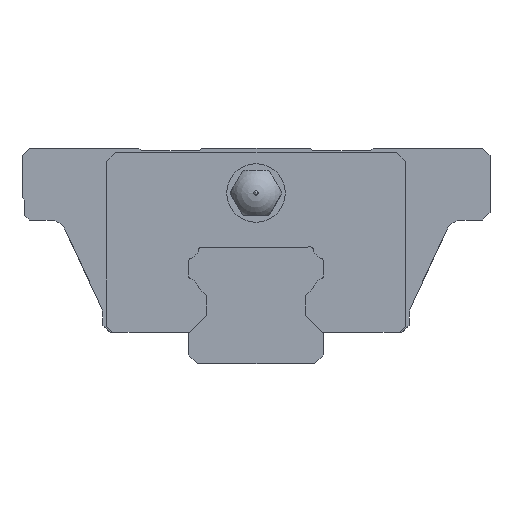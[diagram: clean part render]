
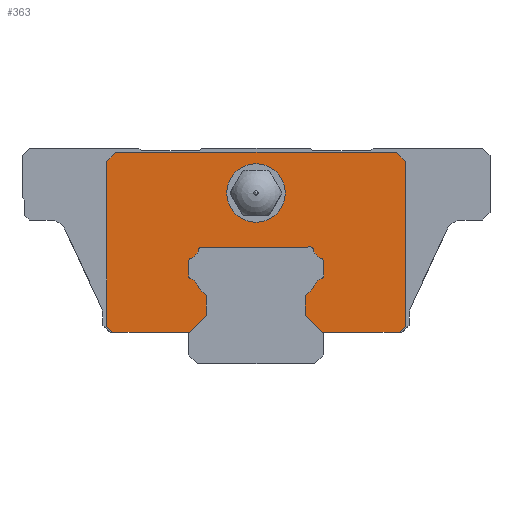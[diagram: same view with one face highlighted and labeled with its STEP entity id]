
A CAD part, front view. The second image highlights one B-rep face of the part: STEP entity #363.
In plain terms, the highlighted planar face has unit normal (0, -1, 0).
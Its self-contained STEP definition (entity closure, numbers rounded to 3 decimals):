
#127=FACE_BOUND('',#772,.T.);
#128=FACE_BOUND('',#773,.T.);
#363=ADVANCED_FACE('',(#127,#128),#502,.T.);
#502=PLANE('',#3280);
#772=EDGE_LOOP('',(#1483,#1484,#1485,#1486,#1487,#1488,#1489,#1490,#1491,#1492,#1493,#1494,#1495,#1496,#1497,#1498,#1499,#1500,#1501,#1502,#1503,#1504,#1505,#1506,#1507,#1508,#1509,#1510));
#773=EDGE_LOOP('',(#1511));
#914=CIRCLE('',#3219,0.3);
#916=CIRCLE('',#3222,1.4);
#918=CIRCLE('',#3229,1.4);
#920=CIRCLE('',#3232,0.3);
#922=CIRCLE('',#3236,0.3);
#924=CIRCLE('',#3239,1.4);
#926=CIRCLE('',#3242,0.3);
#928=CIRCLE('',#3245,0.3);
#930=CIRCLE('',#3248,1.4);
#932=CIRCLE('',#3251,0.3);
#936=CIRCLE('',#3278,3.25);
#1483=ORIENTED_EDGE('',*,*,#2380,.F.);
#1484=ORIENTED_EDGE('',*,*,#2344,.F.);
#1485=ORIENTED_EDGE('',*,*,#2341,.F.);
#1486=ORIENTED_EDGE('',*,*,#2338,.F.);
#1487=ORIENTED_EDGE('',*,*,#2335,.F.);
#1488=ORIENTED_EDGE('',*,*,#2332,.F.);
#1489=ORIENTED_EDGE('',*,*,#2378,.F.);
#1490=ORIENTED_EDGE('',*,*,#2376,.F.);
#1491=ORIENTED_EDGE('',*,*,#2373,.F.);
#1492=ORIENTED_EDGE('',*,*,#2384,.F.);
#1493=ORIENTED_EDGE('',*,*,#2369,.F.);
#1494=ORIENTED_EDGE('',*,*,#2366,.F.);
#1495=ORIENTED_EDGE('',*,*,#2363,.F.);
#1496=ORIENTED_EDGE('',*,*,#2360,.F.);
#1497=ORIENTED_EDGE('',*,*,#2357,.F.);
#1498=ORIENTED_EDGE('',*,*,#2354,.F.);
#1499=ORIENTED_EDGE('',*,*,#2351,.F.);
#1500=ORIENTED_EDGE('',*,*,#2348,.F.);
#1501=ORIENTED_EDGE('',*,*,#2382,.F.);
#1502=ORIENTED_EDGE('',*,*,#2301,.T.);
#1503=ORIENTED_EDGE('',*,*,#2394,.T.);
#1504=ORIENTED_EDGE('',*,*,#2397,.T.);
#1505=ORIENTED_EDGE('',*,*,#2399,.T.);
#1506=ORIENTED_EDGE('',*,*,#2401,.T.);
#1507=ORIENTED_EDGE('',*,*,#2403,.T.);
#1508=ORIENTED_EDGE('',*,*,#2406,.T.);
#1509=ORIENTED_EDGE('',*,*,#2407,.T.);
#1510=ORIENTED_EDGE('',*,*,#2282,.T.);
#1511=ORIENTED_EDGE('',*,*,#2409,.F.);
#1959=VERTEX_POINT('',#4648);
#1961=VERTEX_POINT('',#4651);
#1970=VERTEX_POINT('',#4679);
#1972=VERTEX_POINT('',#4684);
#1984=VERTEX_POINT('',#4742);
#1986=VERTEX_POINT('',#4746);
#1988=VERTEX_POINT('',#4751);
#1990=VERTEX_POINT('',#4757);
#1992=VERTEX_POINT('',#4763);
#1994=VERTEX_POINT('',#4769);
#1996=VERTEX_POINT('',#4775);
#1998=VERTEX_POINT('',#4779);
#2000=VERTEX_POINT('',#4784);
#2002=VERTEX_POINT('',#4790);
#2004=VERTEX_POINT('',#4796);
#2006=VERTEX_POINT('',#4802);
#2008=VERTEX_POINT('',#4808);
#2010=VERTEX_POINT('',#4814);
#2012=VERTEX_POINT('',#4820);
#2014=VERTEX_POINT('',#4826);
#2016=VERTEX_POINT('',#4830);
#2018=VERTEX_POINT('',#4835);
#2019=VERTEX_POINT('',#4872);
#2021=VERTEX_POINT('',#4878);
#2022=VERTEX_POINT('',#4882);
#2023=VERTEX_POINT('',#4886);
#2024=VERTEX_POINT('',#4890);
#2026=VERTEX_POINT('',#4896);
#2028=VERTEX_POINT('',#4904);
#2282=EDGE_CURVE('',#1961,#1959,#2668,.T.);
#2301=EDGE_CURVE('',#1970,#1972,#2683,.T.);
#2332=EDGE_CURVE('',#1986,#1984,#2706,.T.);
#2335=EDGE_CURVE('',#1984,#1988,#914,.T.);
#2338=EDGE_CURVE('',#1988,#1990,#916,.T.);
#2341=EDGE_CURVE('',#1990,#1992,#2711,.T.);
#2344=EDGE_CURVE('',#1992,#1994,#2714,.T.);
#2348=EDGE_CURVE('',#1998,#1996,#2718,.T.);
#2351=EDGE_CURVE('',#1996,#2000,#2721,.T.);
#2354=EDGE_CURVE('',#2000,#2002,#918,.T.);
#2357=EDGE_CURVE('',#2002,#2004,#920,.T.);
#2360=EDGE_CURVE('',#2004,#2006,#2726,.T.);
#2363=EDGE_CURVE('',#2006,#2008,#922,.T.);
#2366=EDGE_CURVE('',#2008,#2010,#924,.T.);
#2369=EDGE_CURVE('',#2010,#2012,#926,.T.);
#2373=EDGE_CURVE('',#2016,#2014,#928,.T.);
#2376=EDGE_CURVE('',#2014,#2018,#930,.T.);
#2378=EDGE_CURVE('',#2018,#1986,#932,.T.);
#2380=EDGE_CURVE('',#1994,#1959,#2734,.T.);
#2382=EDGE_CURVE('',#1970,#1998,#2736,.T.);
#2384=EDGE_CURVE('',#2012,#2016,#2738,.T.);
#2394=EDGE_CURVE('',#1972,#2019,#2748,.T.);
#2397=EDGE_CURVE('',#2019,#2021,#2750,.T.);
#2399=EDGE_CURVE('',#2021,#2022,#2752,.T.);
#2401=EDGE_CURVE('',#2022,#2023,#2754,.T.);
#2403=EDGE_CURVE('',#2023,#2024,#2756,.T.);
#2406=EDGE_CURVE('',#2024,#2026,#2758,.T.);
#2407=EDGE_CURVE('',#2026,#1961,#2759,.T.);
#2409=EDGE_CURVE('',#2028,#2028,#936,.T.);
#2668=LINE('',#4650,#2956);
#2683=LINE('',#4685,#2971);
#2706=LINE('',#4747,#2994);
#2711=LINE('',#4765,#2999);
#2714=LINE('',#4771,#3002);
#2718=LINE('',#4780,#3006);
#2721=LINE('',#4786,#3009);
#2726=LINE('',#4804,#3014);
#2734=LINE('',#4843,#3022);
#2736=LINE('',#4846,#3024);
#2738=LINE('',#4849,#3026);
#2748=LINE('',#4873,#3036);
#2750=LINE('',#4879,#3038);
#2752=LINE('',#4883,#3040);
#2754=LINE('',#4887,#3042);
#2756=LINE('',#4891,#3044);
#2758=LINE('',#4897,#3046);
#2759=LINE('',#4899,#3047);
#2956=VECTOR('',#3641,1.);
#2971=VECTOR('',#3672,1.);
#2994=VECTOR('',#3745,1.);
#2999=VECTOR('',#3764,1.);
#3002=VECTOR('',#3769,1.);
#3006=VECTOR('',#3775,1.);
#3009=VECTOR('',#3780,1.);
#3014=VECTOR('',#3799,1.);
#3022=VECTOR('',#3845,1.);
#3024=VECTOR('',#3849,1.);
#3026=VECTOR('',#3853,1.);
#3036=VECTOR('',#3889,1.);
#3038=VECTOR('',#3895,1.);
#3040=VECTOR('',#3899,1.);
#3042=VECTOR('',#3903,1.);
#3044=VECTOR('',#3907,1.);
#3046=VECTOR('',#3913,1.);
#3047=VECTOR('',#3916,1.);
#3219=AXIS2_PLACEMENT_3D('',#4753,#3751,#3752);
#3222=AXIS2_PLACEMENT_3D('',#4759,#3758,#3759);
#3229=AXIS2_PLACEMENT_3D('',#4792,#3786,#3787);
#3232=AXIS2_PLACEMENT_3D('',#4798,#3793,#3794);
#3236=AXIS2_PLACEMENT_3D('',#4810,#3805,#3806);
#3239=AXIS2_PLACEMENT_3D('',#4816,#3812,#3813);
#3242=AXIS2_PLACEMENT_3D('',#4822,#3819,#3820);
#3245=AXIS2_PLACEMENT_3D('',#4831,#3827,#3828);
#3248=AXIS2_PLACEMENT_3D('',#4837,#3834,#3835);
#3251=AXIS2_PLACEMENT_3D('',#4840,#3840,#3841);
#3278=AXIS2_PLACEMENT_3D('',#4903,#3921,#3922);
#3280=AXIS2_PLACEMENT_3D('',#4906,#3925,#3926);
#3641=DIRECTION('',(1.,0.,0.));
#3672=DIRECTION('',(1.,0.,0.));
#3745=DIRECTION('',(0.,0.,-1.));
#3751=DIRECTION('',(0.,-1.,0.));
#3752=DIRECTION('',(0.,0.,-1.));
#3758=DIRECTION('',(0.,1.,0.));
#3759=DIRECTION('',(0.,0.,-1.));
#3764=DIRECTION('',(0.707,0.,-0.707));
#3769=DIRECTION('',(0.,0.,-1.));
#3775=DIRECTION('',(0.,0.,1.));
#3780=DIRECTION('',(0.707,0.,0.707));
#3786=DIRECTION('',(0.,1.,0.));
#3787=DIRECTION('',(0.,0.,-1.));
#3793=DIRECTION('',(0.,-1.,0.));
#3794=DIRECTION('',(0.,0.,-1.));
#3799=DIRECTION('',(0.,0.,1.));
#3805=DIRECTION('',(0.,-1.,0.));
#3806=DIRECTION('',(0.,0.,-1.));
#3812=DIRECTION('',(0.,1.,0.));
#3813=DIRECTION('',(0.,0.,-1.));
#3819=DIRECTION('',(0.,-1.,0.));
#3820=DIRECTION('',(0.,0.,-1.));
#3827=DIRECTION('',(0.,-1.,0.));
#3828=DIRECTION('',(0.,0.,-1.));
#3834=DIRECTION('',(0.,1.,0.));
#3835=DIRECTION('',(0.,0.,-1.));
#3840=DIRECTION('',(0.,-1.,0.));
#3841=DIRECTION('',(0.,0.,-1.));
#3845=DIRECTION('',(-0.707,0.,-0.707));
#3849=DIRECTION('',(-0.707,0.,0.707));
#3853=DIRECTION('',(-1.,0.,0.));
#3889=DIRECTION('',(0.707,0.,0.707));
#3895=DIRECTION('',(0.,0.,1.));
#3899=DIRECTION('',(-0.707,0.,0.707));
#3903=DIRECTION('',(-1.,0.,0.));
#3907=DIRECTION('',(-0.707,0.,-0.707));
#3913=DIRECTION('',(0.,0.,-1.));
#3916=DIRECTION('',(0.707,0.,-0.707));
#3921=DIRECTION('',(0.,-1.,0.));
#3922=DIRECTION('',(1.,0.,0.));
#3925=DIRECTION('',(0.,-1.,0.));
#3926=DIRECTION('',(0.,0.,-1.));
#4648=CARTESIAN_POINT('',(-7.4,-7.5,3.5));
#4650=CARTESIAN_POINT('',(-15.9,-7.5,3.5));
#4651=CARTESIAN_POINT('',(-15.9,-7.5,3.5));
#4679=CARTESIAN_POINT('',(7.4,-7.5,3.5));
#4684=CARTESIAN_POINT('',(15.9,-7.5,3.5));
#4685=CARTESIAN_POINT('',(-15.9,-7.5,3.5));
#4742=CARTESIAN_POINT('',(-7.5,-7.5,9.772));
#4746=CARTESIAN_POINT('',(-7.5,-7.5,11.428));
#4747=CARTESIAN_POINT('',(-7.5,-7.5,19.));
#4751=CARTESIAN_POINT('',(-7.295,-7.5,9.488));
#4753=CARTESIAN_POINT('',(-7.2,-7.5,9.772));
#4757=CARTESIAN_POINT('',(-6.376,-7.5,8.476));
#4759=CARTESIAN_POINT('',(-7.74,-7.5,8.16));
#4763=CARTESIAN_POINT('',(-5.5,-7.5,7.6));
#4765=CARTESIAN_POINT('',(-8.45,-7.5,10.55));
#4769=CARTESIAN_POINT('',(-5.5,-7.5,5.4));
#4771=CARTESIAN_POINT('',(-5.5,-7.5,19.));
#4775=CARTESIAN_POINT('',(5.5,-7.5,7.6));
#4779=CARTESIAN_POINT('',(5.5,-7.5,5.4));
#4780=CARTESIAN_POINT('',(5.5,-7.5,19.));
#4784=CARTESIAN_POINT('',(6.376,-7.5,8.476));
#4786=CARTESIAN_POINT('',(8.45,-7.5,10.55));
#4790=CARTESIAN_POINT('',(7.295,-7.5,9.488));
#4792=CARTESIAN_POINT('',(7.74,-7.5,8.16));
#4796=CARTESIAN_POINT('',(7.5,-7.5,9.772));
#4798=CARTESIAN_POINT('',(7.2,-7.5,9.772));
#4802=CARTESIAN_POINT('',(7.5,-7.5,11.428));
#4804=CARTESIAN_POINT('',(7.5,-7.5,19.));
#4808=CARTESIAN_POINT('',(7.295,-7.5,11.712));
#4810=CARTESIAN_POINT('',(7.2,-7.5,11.428));
#4814=CARTESIAN_POINT('',(6.368,-7.5,12.76));
#4816=CARTESIAN_POINT('',(7.74,-7.5,13.04));
#4820=CARTESIAN_POINT('',(6.074,-7.5,13.));
#4822=CARTESIAN_POINT('',(6.074,-7.5,12.7));
#4826=CARTESIAN_POINT('',(-6.368,-7.5,12.76));
#4830=CARTESIAN_POINT('',(-6.074,-7.5,13.));
#4831=CARTESIAN_POINT('',(-6.074,-7.5,12.7));
#4835=CARTESIAN_POINT('',(-7.295,-7.5,11.712));
#4837=CARTESIAN_POINT('',(-7.74,-7.5,13.04));
#4840=CARTESIAN_POINT('',(-7.2,-7.5,11.428));
#4843=CARTESIAN_POINT('',(4.05,-7.5,14.95));
#4846=CARTESIAN_POINT('',(-4.05,-7.5,14.95));
#4849=CARTESIAN_POINT('',(0.,-7.5,13.));
#4872=CARTESIAN_POINT('',(16.6,-7.5,4.2));
#4873=CARTESIAN_POINT('',(15.9,-7.5,3.5));
#4878=CARTESIAN_POINT('',(16.6,-7.5,22.5));
#4879=CARTESIAN_POINT('',(16.6,-7.5,4.2));
#4882=CARTESIAN_POINT('',(15.6,-7.5,23.5));
#4883=CARTESIAN_POINT('',(16.6,-7.5,22.5));
#4886=CARTESIAN_POINT('',(-15.6,-7.5,23.5));
#4887=CARTESIAN_POINT('',(15.6,-7.5,23.5));
#4890=CARTESIAN_POINT('',(-16.6,-7.5,22.5));
#4891=CARTESIAN_POINT('',(-15.6,-7.5,23.5));
#4896=CARTESIAN_POINT('',(-16.6,-7.5,4.2));
#4897=CARTESIAN_POINT('',(-16.6,-7.5,22.5));
#4899=CARTESIAN_POINT('',(-16.6,-7.5,4.2));
#4903=CARTESIAN_POINT('',(0.,-7.5,19.));
#4904=CARTESIAN_POINT('',(3.25,-7.5,19.));
#4906=CARTESIAN_POINT('',(0.,-7.5,19.));
